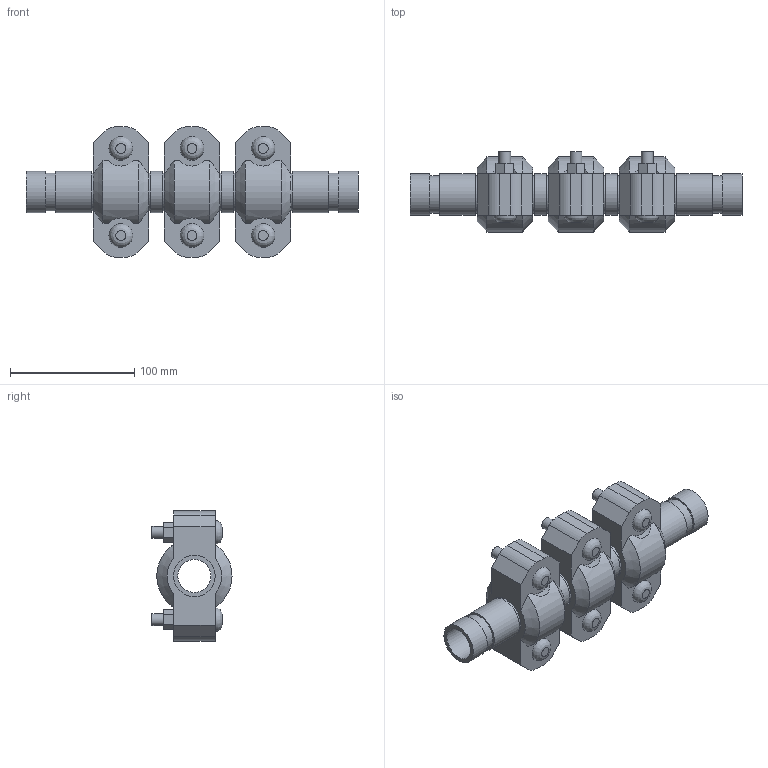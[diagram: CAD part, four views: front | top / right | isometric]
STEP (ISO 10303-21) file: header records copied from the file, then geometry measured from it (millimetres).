
FILE_DESCRIPTION(/* description */ ('VIC EXPANSION JOINT 3 COUPLINGS COMPRESSED STYLE 155 (OGS)','CAx-IF Rec.Pracs.---Representation and Presentation of Product Manufacturing Information (PMI)---4.0---2014-10-13'),/* implementation_level */ '2;1');
FILE_NAME(/* name */ 'C:\Users\kkamble\AppData\Roaming\Autodesk\ApplicationPlugins\Victaulic.Temp\A971\Victaulic_IPS_Expansion Joint_Compressed_3 Couplings_Style 155 (OGS)_1 (25).stp',/* time_stamp */ '2021-06-27T00:24:59+02:00',/* author */ ('kkamble'),/* organization */ ('Victaulic'),/* preprocessor_version */ 'ST-DEVELOPER v17.2',/* originating_system */ 'Autodesk Inventor 2019',/* authorisation */ '');
FILE_SCHEMA (('AP242_MANAGED_MODEL_BASED_3D_ENGINEERING_MIM_LF { 1 0 10303 442 1 1 4 }'));
Length unit declared in the file: inch
Products named in the file (4): 155-01.0; Nipple-01.0; Nipple-01.0_1; 077-01.0
Assembly tree (7 placements, depth 2):
  155-01.0
    Nipple-01.0  x2
    Nipple-01.0_1  x2
    077-01.0  x3
Bounding box: 266.7 x 64.33 x 104.65 mm (x, y, z)
Volume: 510578.9 mm3; surface area: 140617.2 mm2
Topology: 7 solids, 13 shells, 219 faces, 537 edges, 378 vertices
Faces by surface type: plane 126, cylinder 75, cone 12, bspline 6
Full cylindrical faces by diameter (mm): 9.525 x12, 11.43 x6, 26.645 x4, 30.226 x8, 33.401 x15
Entity records: 2859 total; most frequent: CARTESIAN_POINT 553, DIRECTION 459, ORIENTED_EDGE 398, EDGE_CURVE 199, AXIS2_PLACEMENT_3D 182, VERTEX_POINT 142, EDGE_LOOP 105, LINE 95
